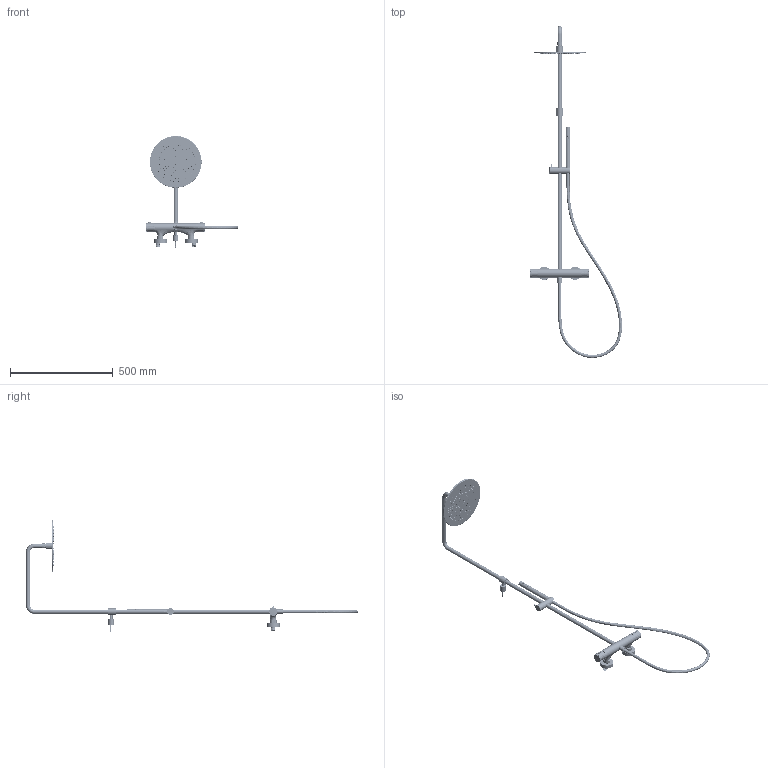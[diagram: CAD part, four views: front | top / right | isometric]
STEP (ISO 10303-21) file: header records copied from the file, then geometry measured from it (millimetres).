
FILE_DESCRIPTION((''),'2;1');
FILE_NAME('60626_SW0001','2024-03-12T15:50:17',('carloff'),(''),'CREO PARAMETRIC BY PTC INC, 2022014','CREO PARAMETRIC BY PTC INC, 2022014','');
FILE_SCHEMA(('CONFIG_CONTROL_DESIGN'));
Products named in the file (1): 60626_SW0001
Bounding box: 448.25 x 1615.17 x 544.9 mm (x, y, z)
Volume: 964026.6 mm3; surface area: 737238.5 mm2
Topology: 10 solids, 10 shells, 4855 faces, 11334 edges, 7090 vertices
Faces by surface type: cylinder 1656, plane 1151, cone 797, bspline 760, torus 392, sphere 91, extrusion 8
Entity records: 309299 total; most frequent: CARTESIAN_POINT 202377, ORIENTED_EDGE 22632, DIRECTION 21543, EDGE_CURVE 11316, AXIS2_PLACEMENT_3D 9016, VERTEX_POINT 7090, EDGE_LOOP 5640, CIRCLE 4929
